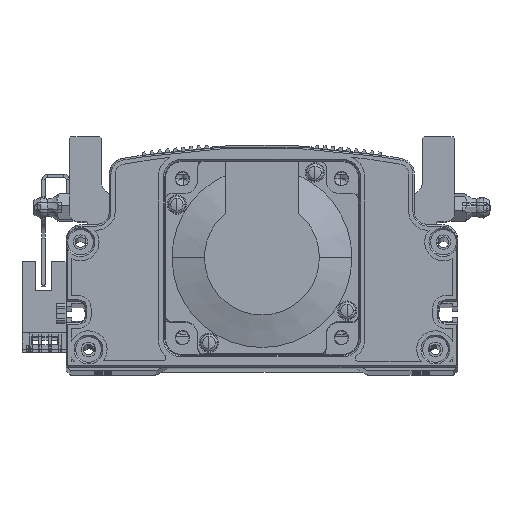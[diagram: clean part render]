
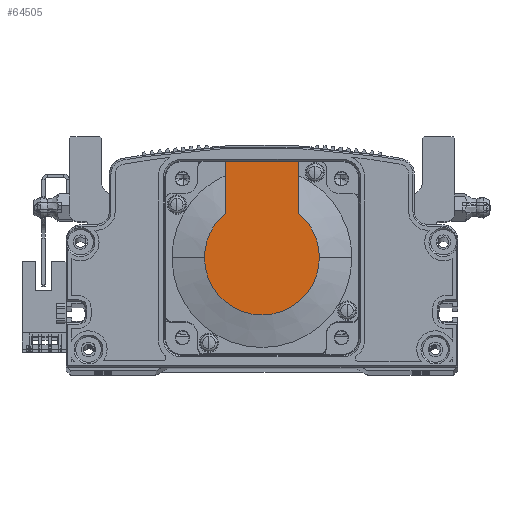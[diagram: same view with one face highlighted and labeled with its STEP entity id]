
A CAD part, top view. The second image highlights one B-rep face of the part: STEP entity #64505.
In plain terms, the highlighted planar face has unit normal (0, 0, 1) as drawn and (-1, 0, 0) by its records, which use the part's own axes.
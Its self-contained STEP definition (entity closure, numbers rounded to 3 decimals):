
#1482 = DIRECTION ( 'NONE',  ( 0., 0., 1. ) ) ;
#3200 = CARTESIAN_POINT ( 'NONE',  ( -118.5, 0., 0. ) ) ;
#4371 = ORIENTED_EDGE ( 'NONE', *, *, #62171, .T. ) ;
#7016 = ORIENTED_EDGE ( 'NONE', *, *, #8471, .F. ) ;
#8471 = EDGE_CURVE ( 'NONE', #27945, #86396, #82777, .T. ) ;
#9704 = AXIS2_PLACEMENT_3D ( 'NONE', #77477, #43652, #50483 ) ;
#13635 = ORIENTED_EDGE ( 'NONE', *, *, #25620, .T. ) ;
#13675 = CIRCLE ( 'NONE', #9704, 17.881 ) ;
#14740 = CARTESIAN_POINT ( 'NONE',  ( -118.5, 13.735, 11.45 ) ) ;
#22022 = VERTEX_POINT ( 'NONE', #24612 ) ;
#22086 = CARTESIAN_POINT ( 'NONE',  ( -118.5, 30., -11.45 ) ) ;
#23389 = DIRECTION ( 'NONE',  ( -1., 0., 0. ) ) ;
#23602 = CARTESIAN_POINT ( 'NONE',  ( -118.5, 0., 11.45 ) ) ;
#23611 = CARTESIAN_POINT ( 'NONE',  ( -118.5, 30., 25. ) ) ;
#24612 = CARTESIAN_POINT ( 'NONE',  ( -118.5, 0., 17.881 ) ) ;
#25620 = EDGE_CURVE ( 'NONE', #22022, #86396, #83405, .T. ) ;
#27945 = VERTEX_POINT ( 'NONE', #67935 ) ;
#28706 = DIRECTION ( 'NONE',  ( 0., -1., 0. ) ) ;
#29304 = CARTESIAN_POINT ( 'NONE',  ( -118.5, 0., -17.881 ) ) ;
#30436 = DIRECTION ( 'NONE',  ( 0., -1., 0. ) ) ;
#30712 = EDGE_CURVE ( 'NONE', #61595, #27945, #36326, .T. ) ;
#31382 = VERTEX_POINT ( 'NONE', #44165 ) ;
#36326 = LINE ( 'NONE', #23611, #42706 ) ;
#36398 = CARTESIAN_POINT ( 'NONE',  ( -118.5, -8.941, -11.45 ) ) ;
#37378 = EDGE_LOOP ( 'NONE', ( #65011, #63164, #4371, #13635, #7016, #54797 ) ) ;
#42706 = VECTOR ( 'NONE', #50018, 1000. ) ;
#43652 = DIRECTION ( 'NONE',  ( -1., 0., 0. ) ) ;
#44165 = CARTESIAN_POINT ( 'NONE',  ( -118.5, 13.735, -11.45 ) ) ;
#45821 = EDGE_CURVE ( 'NONE', #61595, #31382, #49238, .T. ) ;
#47695 = VECTOR ( 'NONE', #30436, 1000. ) ;
#48942 = CARTESIAN_POINT ( 'NONE',  ( -118.5, -8.941, 0. ) ) ;
#49238 = LINE ( 'NONE', #36398, #84232 ) ;
#50018 = DIRECTION ( 'NONE',  ( 0., 0., 1. ) ) ;
#50149 = DIRECTION ( 'NONE',  ( -1., 0., 0. ) ) ;
#50483 = DIRECTION ( 'NONE',  ( 0., 0., -1. ) ) ;
#54797 = ORIENTED_EDGE ( 'NONE', *, *, #30712, .F. ) ;
#61595 = VERTEX_POINT ( 'NONE', #22086 ) ;
#62171 = EDGE_CURVE ( 'NONE', #80154, #22022, #13675, .T. ) ;
#63148 = PLANE ( 'NONE',  #70575 ) ;
#63164 = ORIENTED_EDGE ( 'NONE', *, *, #86589, .T. ) ;
#64505 = ADVANCED_FACE ( 'NONE', ( #75943 ), #63148, .T. ) ;
#65011 = ORIENTED_EDGE ( 'NONE', *, *, #45821, .T. ) ;
#67935 = CARTESIAN_POINT ( 'NONE',  ( -118.5, 30., 11.45 ) ) ;
#70575 = AXIS2_PLACEMENT_3D ( 'NONE', #48942, #82467, #1482 ) ;
#75943 = FACE_OUTER_BOUND ( 'NONE', #37378, .T. ) ;
#77477 = CARTESIAN_POINT ( 'NONE',  ( -118.5, 0., 0. ) ) ;
#80154 = VERTEX_POINT ( 'NONE', #29304 ) ;
#81210 = AXIS2_PLACEMENT_3D ( 'NONE', #83977, #50149, #83686 ) ;
#82467 = DIRECTION ( 'NONE',  ( -1., 0., 0. ) ) ;
#82777 = LINE ( 'NONE', #23602, #47695 ) ;
#83405 = CIRCLE ( 'NONE', #81210, 17.881 ) ;
#83686 = DIRECTION ( 'NONE',  ( 0., 0., -1. ) ) ;
#83977 = CARTESIAN_POINT ( 'NONE',  ( -118.5, 0., 0. ) ) ;
#84208 = DIRECTION ( 'NONE',  ( 0., 0., -1. ) ) ;
#84232 = VECTOR ( 'NONE', #28706, 1000. ) ;
#86396 = VERTEX_POINT ( 'NONE', #14740 ) ;
#86589 = EDGE_CURVE ( 'NONE', #31382, #80154, #86713, .T. ) ;
#86607 = AXIS2_PLACEMENT_3D ( 'NONE', #3200, #23389, #84208 ) ;
#86713 = CIRCLE ( 'NONE', #86607, 17.881 ) ;
